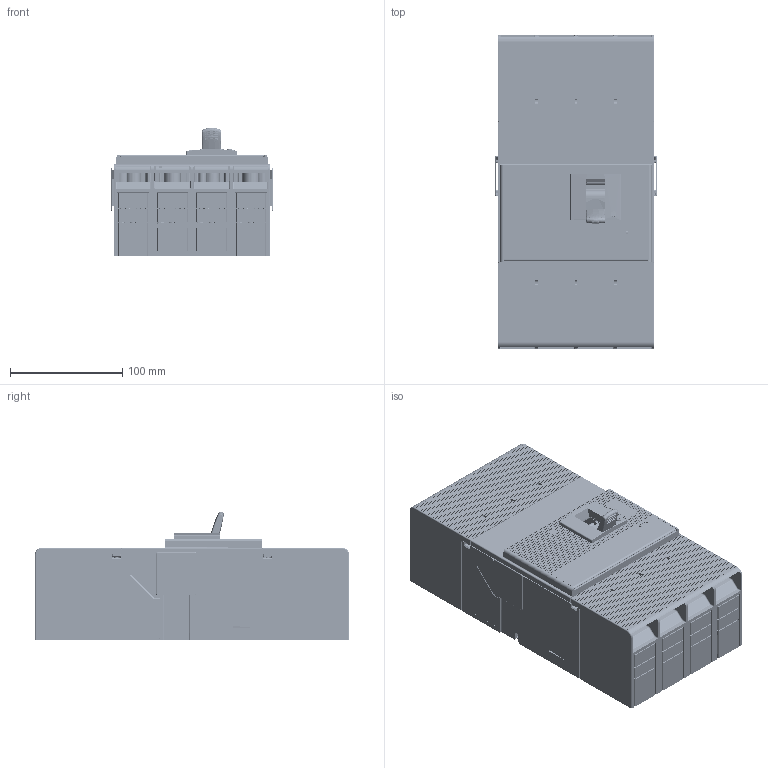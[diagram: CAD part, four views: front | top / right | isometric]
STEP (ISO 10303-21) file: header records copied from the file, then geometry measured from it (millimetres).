
FILE_DESCRIPTION((''),'2;1');
FILE_NAME('10000848876_ASM','2013-12-11T',('VSrinivas'),(''),'PRO/ENGINEER BY PARAMETRIC TECHNOLOGY CORPORATION, 2011330','PRO/ENGINEER BY PARAMETRIC TECHNOLOGY CORPORATION, 2011330','');
FILE_SCHEMA(('CONFIG_CONTROL_DESIGN'));
Products named in the file (18): 10000668165; 10000668166; 10000843544; 10000668167_ASM; 10000848877; 10000848878; 10000848879; 10000848880; 10000848881_ASM; 10000848882; 10000848883; 10000848884_ASM; 10000848885; 10000848886; 10000848887_ASM; 10000848888_ASM; 10000848853; 10000848876_ASM
Assembly tree (33 placements, depth 4):
  10000848876_ASM
    10000668167_ASM
      10000668165
      10000668166
      10000843544  x4
    10000848888_ASM  x8
      10000848881_ASM
        10000848877
        10000848878  x6
        10000848879
        10000848880
      10000848884_ASM
        10000848882
        10000848883
      10000848887_ASM
        10000848885
        10000848886
    10000848853  x2
Bounding box: 144 x 280 x 114.62 mm (x, y, z)
Surface area: 963195 mm2 (no closed solid volume)
Topology: 0 solids, 149 shells, 29317 faces, 76639 edges, 49121 vertices
Faces by surface type: plane 21240, cylinder 5737, torus 750, sphere 711, cone 657, bspline 175, extrusion 47
Entity records: 793153 total; most frequent: CARTESIAN_POINT 167906, ORIENTED_EDGE 131707, DIRECTION 123271, EDGE_CURVE 66009, VECTOR 54119, LINE 54072, VERTEX_POINT 42899, AXIS2_PLACEMENT_3D 34576
